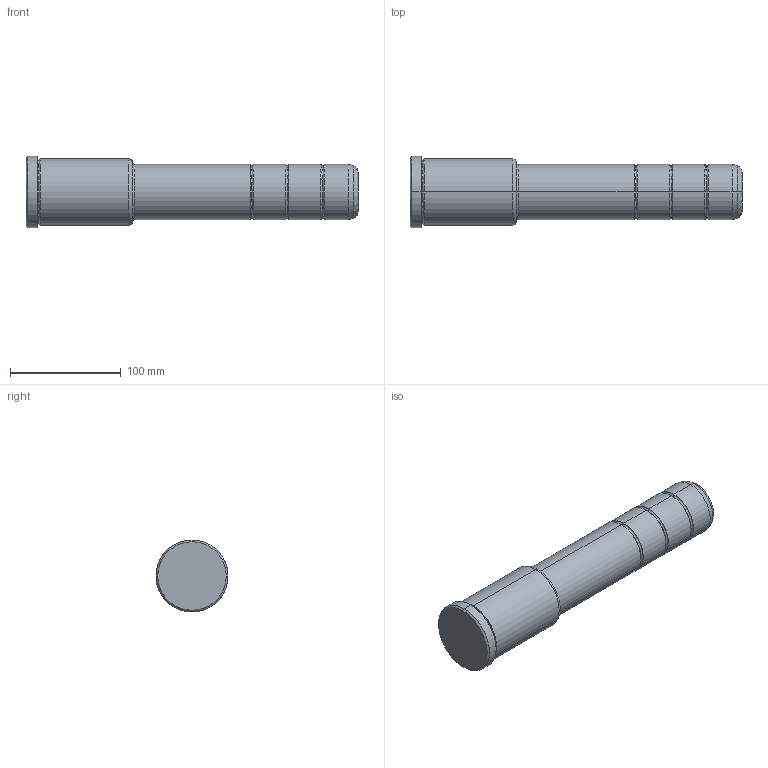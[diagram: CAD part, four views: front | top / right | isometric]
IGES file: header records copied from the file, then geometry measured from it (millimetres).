
Start section: START RECORD GO HERE.
Global section: file name: 351-50X96X300.igs; native system: DASSAULT SYSTEMES CATIA V5 R20 - www.3ds.com; preprocessor: CATIA Version 5 Release 20 ; author: Utente; organization: NB04-ASUS; date: 20211108.195349; units: millimetre
Bounding box: 300 x 65 x 65 mm (x, y, z)
Surface area: 56804.4 mm2 (no closed solid volume)
Topology: 0 solids, 0 shells, 41 faces, 228 edges, 228 vertices
Faces by surface type: revolution 38, plane 3
